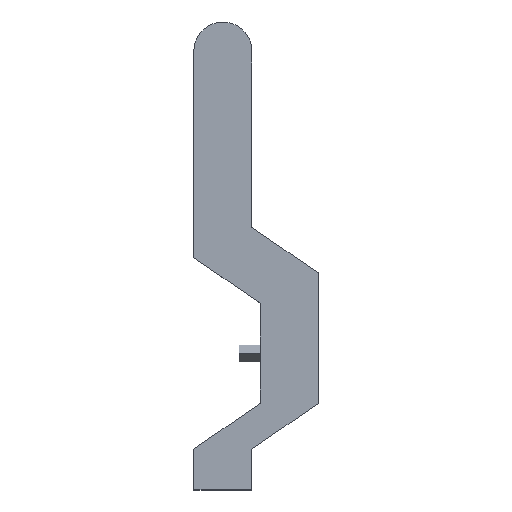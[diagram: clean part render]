
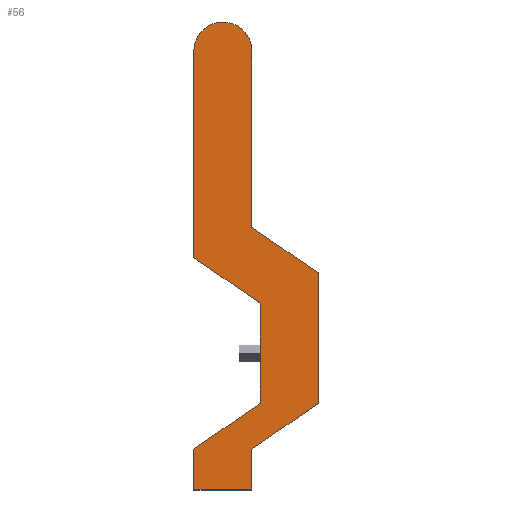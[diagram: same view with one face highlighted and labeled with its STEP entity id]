
A CAD part, top view. The second image highlights one B-rep face of the part: STEP entity #56.
In plain terms, the highlighted planar face has unit normal (0, 0, 1).
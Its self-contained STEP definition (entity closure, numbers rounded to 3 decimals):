
#56=ADVANCED_FACE('',(#82),#83,.T.);
#82=FACE_OUTER_BOUND('',#121,.T.);
#83=PLANE('',#122);
#121=EDGE_LOOP('',(#184,#185,#186,#187,#188,#189,#190,#191,#192,#193,#194,#195,#196,#197));
#122=AXIS2_PLACEMENT_3D('',#198,#199,#200);
#184=ORIENTED_EDGE('',*,*,#321,.F.);
#185=ORIENTED_EDGE('',*,*,#322,.F.);
#186=ORIENTED_EDGE('',*,*,#323,.F.);
#187=ORIENTED_EDGE('',*,*,#324,.F.);
#188=ORIENTED_EDGE('',*,*,#325,.F.);
#189=ORIENTED_EDGE('',*,*,#326,.F.);
#190=ORIENTED_EDGE('',*,*,#327,.F.);
#191=ORIENTED_EDGE('',*,*,#328,.F.);
#192=ORIENTED_EDGE('',*,*,#329,.F.);
#193=ORIENTED_EDGE('',*,*,#330,.F.);
#194=ORIENTED_EDGE('',*,*,#309,.F.);
#195=ORIENTED_EDGE('',*,*,#331,.F.);
#196=ORIENTED_EDGE('',*,*,#332,.F.);
#197=ORIENTED_EDGE('',*,*,#319,.F.);
#198=CARTESIAN_POINT('',(27.475,-45.212,21.));
#199=DIRECTION('',(0.0,0.0,1.0));
#200=DIRECTION('',(0.,-1.0,0.0));
#309=EDGE_CURVE('',#360,#356,#362,.T.);
#319=EDGE_CURVE('',#368,#379,#380,.T.);
#321=EDGE_CURVE('',#382,#368,#383,.T.);
#322=EDGE_CURVE('',#384,#382,#385,.T.);
#323=EDGE_CURVE('',#386,#384,#387,.T.);
#324=EDGE_CURVE('',#388,#386,#389,.T.);
#325=EDGE_CURVE('',#390,#388,#391,.T.);
#326=EDGE_CURVE('',#392,#390,#393,.T.);
#327=EDGE_CURVE('',#394,#392,#395,.T.);
#328=EDGE_CURVE('',#396,#394,#397,.T.);
#329=EDGE_CURVE('',#398,#396,#399,.T.);
#330=EDGE_CURVE('',#356,#398,#400,.T.);
#331=EDGE_CURVE('',#401,#360,#402,.T.);
#332=EDGE_CURVE('',#379,#401,#403,.T.);
#356=VERTEX_POINT('',#437);
#360=VERTEX_POINT('',#442);
#362=CIRCLE('',#445,3.5);
#368=VERTEX_POINT('',#453);
#379=VERTEX_POINT('',#471);
#380=LINE('',#472,#473);
#382=VERTEX_POINT('',#476);
#383=LINE('',#477,#478);
#384=VERTEX_POINT('',#479);
#385=LINE('',#480,#481);
#386=VERTEX_POINT('',#482);
#387=LINE('',#483,#484);
#388=VERTEX_POINT('',#485);
#389=LINE('',#486,#487);
#390=VERTEX_POINT('',#488);
#391=LINE('',#489,#490);
#392=VERTEX_POINT('',#491);
#393=LINE('',#492,#493);
#394=VERTEX_POINT('',#494);
#395=LINE('',#495,#496);
#396=VERTEX_POINT('',#497);
#397=LINE('',#498,#499);
#398=VERTEX_POINT('',#500);
#399=LINE('',#501,#502);
#400=CIRCLE('',#503,3.5);
#401=VERTEX_POINT('',#504);
#402=LINE('',#505,#506);
#403=LINE('',#507,#508);
#437=CARTESIAN_POINT('',(19.594,-10.601,21.));
#442=CARTESIAN_POINT('',(16.094,-14.101,21.));
#445=AXIS2_PLACEMENT_3D('',#567,#568,#569);
#453=CARTESIAN_POINT('',(24.091,-50.601,21.));
#471=CARTESIAN_POINT('',(24.091,-44.572,21.));
#472=CARTESIAN_POINT('',(24.091,-44.572,21.));
#473=VECTOR('',#579,1.0);
#476=CARTESIAN_POINT('',(24.091,-56.63,21.));
#477=CARTESIAN_POINT('',(24.091,-51.601,21.));
#478=VECTOR('',#581,1.0);
#479=CARTESIAN_POINT('',(16.094,-62.164,21.));
#480=CARTESIAN_POINT('',(24.091,-56.63,21.));
#481=VECTOR('',#582,1.0);
#482=CARTESIAN_POINT('',(16.094,-67.101,21.));
#483=CARTESIAN_POINT('',(16.094,-62.164,21.));
#484=VECTOR('',#583,1.0);
#485=CARTESIAN_POINT('',(23.094,-67.101,21.));
#486=CARTESIAN_POINT('',(16.094,-67.101,21.));
#487=VECTOR('',#584,1.0);
#488=CARTESIAN_POINT('',(23.094,-62.184,21.));
#489=CARTESIAN_POINT('',(23.094,-67.101,21.));
#490=VECTOR('',#585,1.0);
#491=CARTESIAN_POINT('',(31.091,-56.65,21.));
#492=CARTESIAN_POINT('',(31.091,-56.65,21.));
#493=VECTOR('',#586,1.0);
#494=CARTESIAN_POINT('',(31.091,-40.903,21.));
#495=CARTESIAN_POINT('',(31.091,-40.903,21.));
#496=VECTOR('',#587,1.0);
#497=CARTESIAN_POINT('',(23.094,-35.369,21.));
#498=CARTESIAN_POINT('',(23.094,-35.369,21.));
#499=VECTOR('',#588,1.0);
#500=CARTESIAN_POINT('',(23.094,-14.101,21.));
#501=CARTESIAN_POINT('',(23.094,-36.585,21.));
#502=VECTOR('',#589,1.0);
#503=AXIS2_PLACEMENT_3D('',#590,#591,#592);
#504=CARTESIAN_POINT('',(16.094,-39.037,21.));
#505=CARTESIAN_POINT('',(16.094,-14.101,21.));
#506=VECTOR('',#593,1.0);
#507=CARTESIAN_POINT('',(16.094,-39.037,21.));
#508=VECTOR('',#594,1.0);
#567=CARTESIAN_POINT('',(19.594,-14.101,21.));
#568=DIRECTION('',(0.0,0.0,-1.0));
#569=DIRECTION('',(0.,1.0,0.0));
#579=DIRECTION('',(0.,1.0,-0.0));
#581=DIRECTION('',(0.,1.0,0.0));
#582=DIRECTION('',(0.822,0.569,0.0));
#583=DIRECTION('',(0.,1.0,-0.0));
#584=DIRECTION('',(-1.0,0.,-0.0));
#585=DIRECTION('',(0.,-1.0,0.0));
#586=DIRECTION('',(-0.822,-0.569,0.0));
#587=DIRECTION('',(0.,-1.0,0.0));
#588=DIRECTION('',(0.822,-0.569,0.0));
#589=DIRECTION('',(0.,-1.0,0.0));
#590=CARTESIAN_POINT('',(19.594,-14.101,21.));
#591=DIRECTION('',(0.0,0.0,-1.0));
#592=DIRECTION('',(0.,1.0,0.0));
#593=DIRECTION('',(0.,1.0,-0.0));
#594=DIRECTION('',(-0.822,0.569,-0.0));
